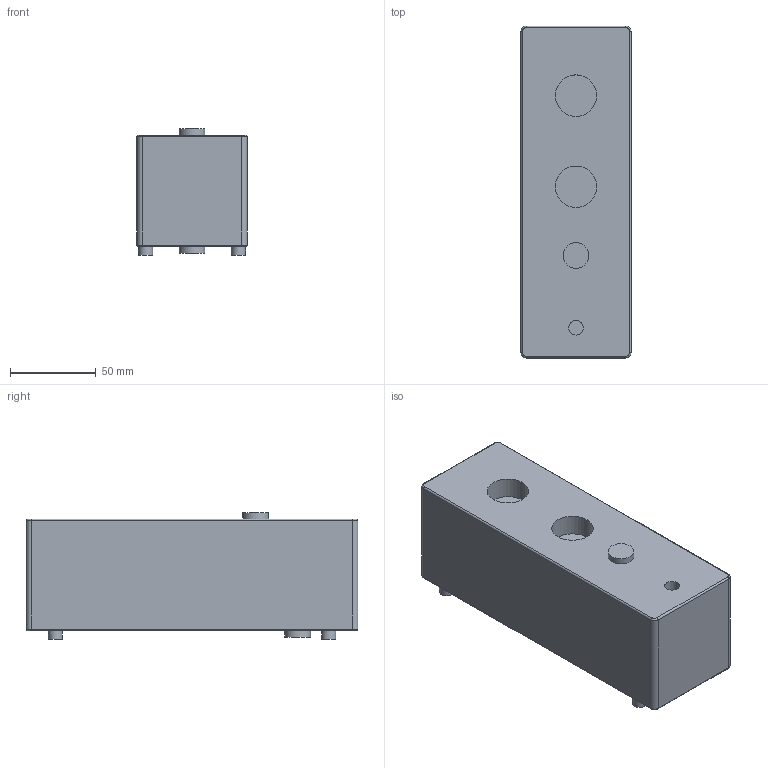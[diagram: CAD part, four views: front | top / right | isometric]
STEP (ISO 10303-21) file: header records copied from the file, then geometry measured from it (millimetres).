
FILE_DESCRIPTION(/* description */ ('GENERATORE DI VUOTO ALTA PORTATA G3/4" (850/1010 l/min)'),/* implementation_level */ '2;1');
FILE_NAME(/* name */ 'C:\PNX_VAULTFOLDER\Area Tecnica\Disegni\VARIE-3D\Componenti\1900 (vuoto)\19T34_M_52_HF_QQ.stp',/* time_stamp */ '2019-09-13T11:47:49+02:00',/* author */ ('maniean1'),/* organization */ ('Pneumax S.p.A.'),/* preprocessor_version */ 'ST-DEVELOPER v17',/* originating_system */ 'Autodesk Inventor 2019',/* authorisation */ '');
FILE_SCHEMA (('AUTOMOTIVE_DESIGN { 1 0 10303 214 3 1 1 }'));
Length unit declared in the file: millimetre
Products named in the file (1): 19T34.M.52.HF.QQ
Bounding box: 64 x 193 x 73.7 mm (x, y, z)
Volume: 792003.5 mm3; surface area: 60939.1 mm2
Topology: 1 solids, 1 shells, 52 faces, 121 edges, 80 vertices
Faces by surface type: cylinder 25, plane 19, torus 8
Full cylindrical faces by diameter (mm): 4.2 x4, 8.3 x4, 8.566 x1, 15 x2, 24.117 x2
Entity records: 1572 total; most frequent: DIRECTION 295, CARTESIAN_POINT 276, ORIENTED_EDGE 242, AXIS2_PLACEMENT_3D 127, EDGE_CURVE 121, VERTEX_POINT 80, CIRCLE 74, EDGE_LOOP 61
